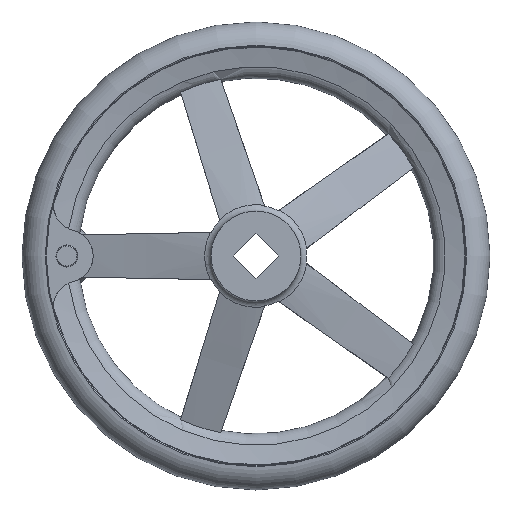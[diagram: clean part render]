
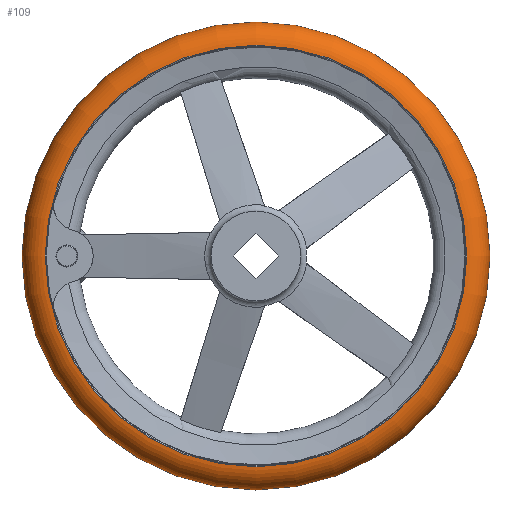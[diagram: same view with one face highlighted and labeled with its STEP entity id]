
A CAD part, left-side view. The second image highlights one B-rep face of the part: STEP entity #109.
In plain terms, the highlighted toroidal (fillet/blend) face has major radius 111.988 mm and minor radius 13.012 mm.
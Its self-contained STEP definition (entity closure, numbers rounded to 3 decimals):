
#109 = ADVANCED_FACE( '', ( #217, #218, #219 ), #220, .T. );
#217 = FACE_BOUND( '', #363, .T. );
#218 = FACE_OUTER_BOUND( '', #364, .T. );
#219 = FACE_OUTER_BOUND( '', #365, .T. );
#220 = TOROIDAL_SURFACE( '', #366, 111.988, 13.012 );
#363 = VERTEX_LOOP( '', #767 );
#364 = EDGE_LOOP( '', ( #768 ) );
#365 = EDGE_LOOP( '', ( #769 ) );
#366 = AXIS2_PLACEMENT_3D( '', #770, #771, #772 );
#767 = VERTEX_POINT( '', #1060 );
#768 = ORIENTED_EDGE( '', *, *, #1061, .T. );
#769 = ORIENTED_EDGE( '', *, *, #1062, .F. );
#770 = CARTESIAN_POINT( '', ( 37., 0., 0. ) );
#771 = DIRECTION( '', ( 1., 0., 0. ) );
#772 = DIRECTION( '', ( 0., 1., 0. ) );
#1060 = CARTESIAN_POINT( '', ( 37., 125., 0. ) );
#1061 = EDGE_CURVE( '', #1302, #1302, #1303, .T. );
#1062 = EDGE_CURVE( '', #1304, #1304, #1305, .T. );
#1302 = VERTEX_POINT( '', #2123 );
#1303 = CIRCLE( '', #2124, 112.542 );
#1304 = VERTEX_POINT( '', #2125 );
#1305 = CIRCLE( '', #2126, 112.542 );
#2123 = CARTESIAN_POINT( '', ( 24., 112.542, 0. ) );
#2124 = AXIS2_PLACEMENT_3D( '', #2372, #2373, #2374 );
#2125 = CARTESIAN_POINT( '', ( 50., 112.542, 0. ) );
#2126 = AXIS2_PLACEMENT_3D( '', #2375, #2376, #2377 );
#2372 = CARTESIAN_POINT( '', ( 24., 0., 0. ) );
#2373 = DIRECTION( '', ( 1., 0., 0. ) );
#2374 = DIRECTION( '', ( 0., 1., 0. ) );
#2375 = CARTESIAN_POINT( '', ( 50., 0., 0. ) );
#2376 = DIRECTION( '', ( 1., 0., 0. ) );
#2377 = DIRECTION( '', ( 0., 1., 0. ) );
